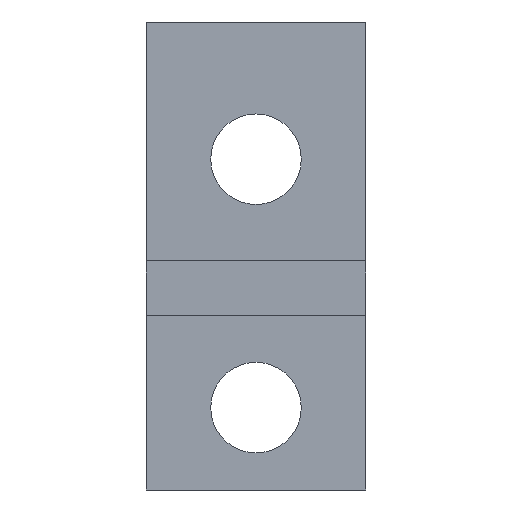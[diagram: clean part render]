
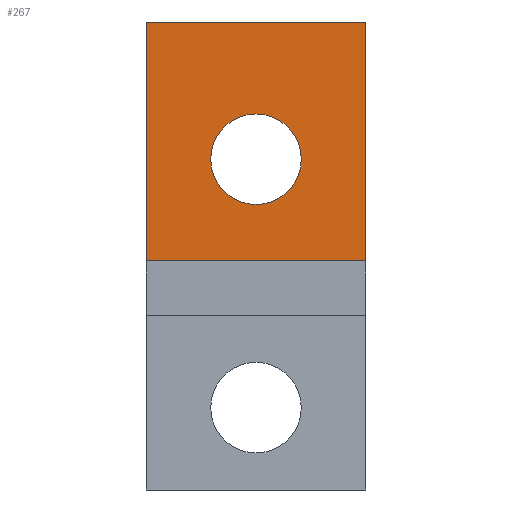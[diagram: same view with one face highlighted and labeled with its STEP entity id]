
A CAD part, left-side view. The second image highlights one B-rep face of the part: STEP entity #267.
In plain terms, the highlighted planar face has unit normal (-1, 0, 0).
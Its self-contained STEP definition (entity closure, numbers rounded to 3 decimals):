
#71 = VERTEX_POINT('',#72);
#72 = CARTESIAN_POINT('',(115.,-4.,15.05));
#78 = EDGE_CURVE('',#79,#71,#81,.T.);
#79 = VERTEX_POINT('',#80);
#80 = CARTESIAN_POINT('',(115.,-4.,6.35));
#81 = LINE('',#82,#83);
#82 = CARTESIAN_POINT('',(115.,-4.,-2.));
#83 = VECTOR('',#84,1.);
#84 = DIRECTION('',(0.,0.,1.));
#196 = VERTEX_POINT('',#197);
#197 = CARTESIAN_POINT('',(115.,4.,6.35));
#203 = EDGE_CURVE('',#196,#204,#206,.T.);
#204 = VERTEX_POINT('',#205);
#205 = CARTESIAN_POINT('',(115.,4.,15.05));
#206 = LINE('',#207,#208);
#207 = CARTESIAN_POINT('',(115.,4.,-2.));
#208 = VECTOR('',#209,1.);
#209 = DIRECTION('',(0.,0.,1.));
#257 = EDGE_CURVE('',#204,#71,#258,.T.);
#258 = LINE('',#259,#260);
#259 = CARTESIAN_POINT('',(115.,4.,15.05));
#260 = VECTOR('',#261,1.);
#261 = DIRECTION('',(0.,-1.,0.));
#267 = ADVANCED_FACE('',(#268,#279),#290,.F.);
#268 = FACE_BOUND('',#269,.F.);
#269 = EDGE_LOOP('',(#270,#276,#277,#278));
#270 = ORIENTED_EDGE('',*,*,#271,.F.);
#271 = EDGE_CURVE('',#196,#79,#272,.T.);
#272 = LINE('',#273,#274);
#273 = CARTESIAN_POINT('',(115.,2.,6.35));
#274 = VECTOR('',#275,1.);
#275 = DIRECTION('',(0.,-1.,0.));
#276 = ORIENTED_EDGE('',*,*,#203,.T.);
#277 = ORIENTED_EDGE('',*,*,#257,.T.);
#278 = ORIENTED_EDGE('',*,*,#78,.F.);
#279 = FACE_BOUND('',#280,.F.);
#280 = EDGE_LOOP('',(#281));
#281 = ORIENTED_EDGE('',*,*,#282,.F.);
#282 = EDGE_CURVE('',#283,#283,#285,.T.);
#283 = VERTEX_POINT('',#284);
#284 = CARTESIAN_POINT('',(115.,0.,8.4));
#285 = CIRCLE('',#286,1.65);
#286 = AXIS2_PLACEMENT_3D('',#287,#288,#289);
#287 = CARTESIAN_POINT('',(115.,0.,10.05));
#288 = DIRECTION('',(1.,0.,0.));
#289 = DIRECTION('',(0.,0.,-1.));
#290 = PLANE('',#291);
#291 = AXIS2_PLACEMENT_3D('',#292,#293,#294);
#292 = CARTESIAN_POINT('',(115.,4.,-2.));
#293 = DIRECTION('',(1.,0.,0.));
#294 = DIRECTION('',(0.,-1.,0.));
